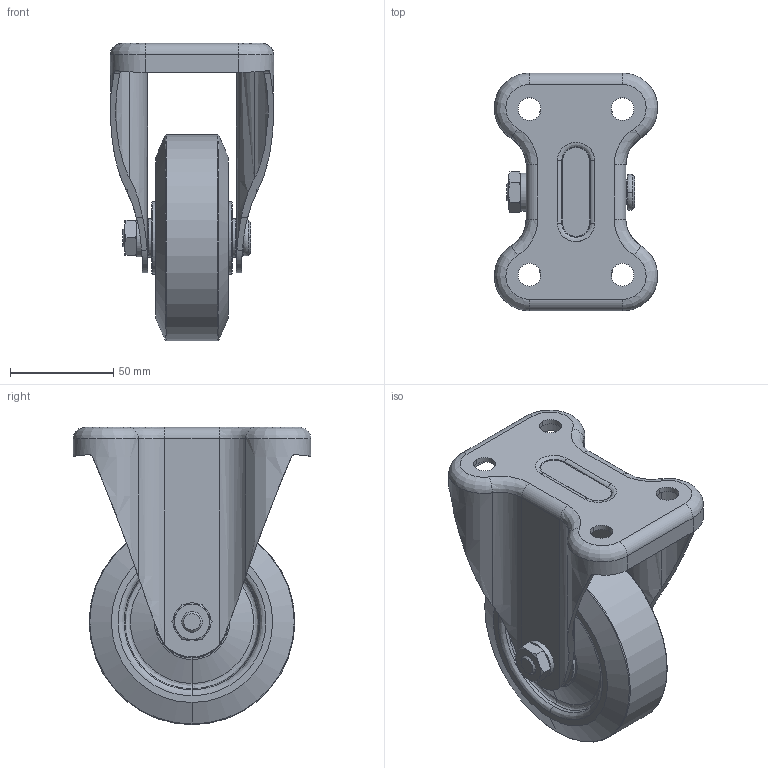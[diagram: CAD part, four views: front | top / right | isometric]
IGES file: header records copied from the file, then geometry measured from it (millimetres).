
Global section: file name: No Iges File Name specified; native system: AutoDesk Inventor R11.0; preprocessor: AutoDesk Inventor Iges Exporter R11.0; author: No Author specified; organization: No Organization specified; date: 20130719.172231; units: millimetre
Bounding box: 79 x 115 x 143.7 mm (x, y, z)
Surface area: 94831.8 mm2 (no closed solid volume)
Topology: 0 solids, 0 shells, 313 faces, 1788 edges, 1788 vertices
Faces by surface type: revolution 228, plane 73, bspline 12
